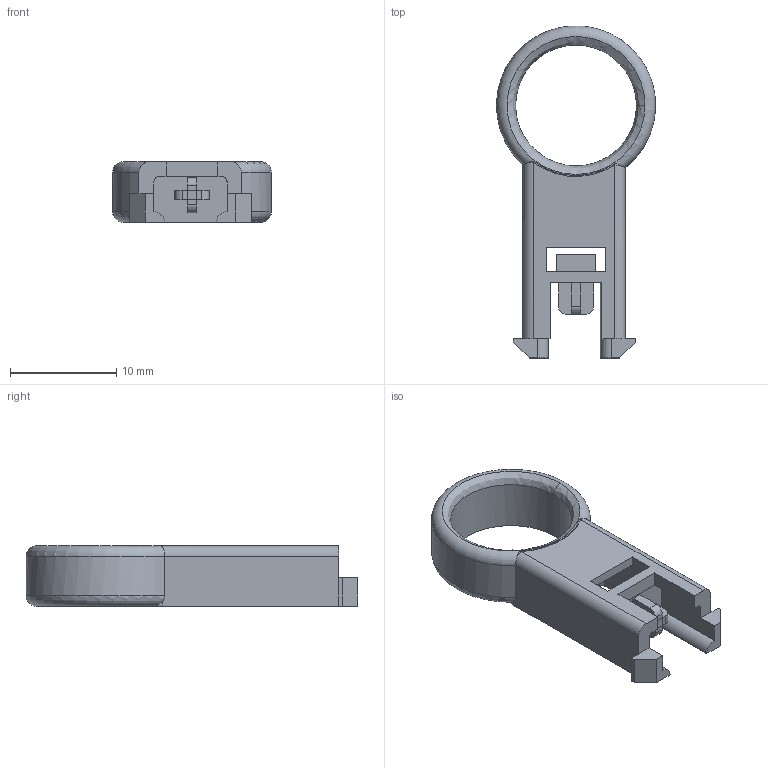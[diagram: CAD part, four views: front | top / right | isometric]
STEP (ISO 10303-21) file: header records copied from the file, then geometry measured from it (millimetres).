
FILE_DESCRIPTION(/* description */ (''),/* implementation_level */ '2;1');
FILE_NAME(/* name */ 'AEG Refactory v6.step',/* time_stamp */ '2024-07-30T10:37:35+02:00',/* author */ (''),/* organization */ (''),/* preprocessor_version */ 'ST-DEVELOPER v20',/* originating_system */ 'Autodesk Translation Framework v13.14.0.145',/* authorisation */ '');
FILE_SCHEMA (('AUTOMOTIVE_DESIGN { 1 0 10303 214 3 1 1 }'));
Length unit declared in the file: millimetre
Products named in the file (1): AEG Refactory
Bounding box: 15 x 31.3 x 5.7 mm (x, y, z)
Volume: 848.4 mm3; surface area: 1293.8 mm2
Topology: 3 solids, 3 shells, 77 faces, 198 edges, 128 vertices
Faces by surface type: plane 49, cylinder 19, torus 5, bspline 2, sphere 2
Full cylindrical faces by diameter (mm): 11.4 x1
Entity records: 2534 total; most frequent: CARTESIAN_POINT 604, ORIENTED_EDGE 396, DIRECTION 386, EDGE_CURVE 198, LINE 140, VECTOR 140, VERTEX_POINT 128, AXIS2_PLACEMENT_3D 123
